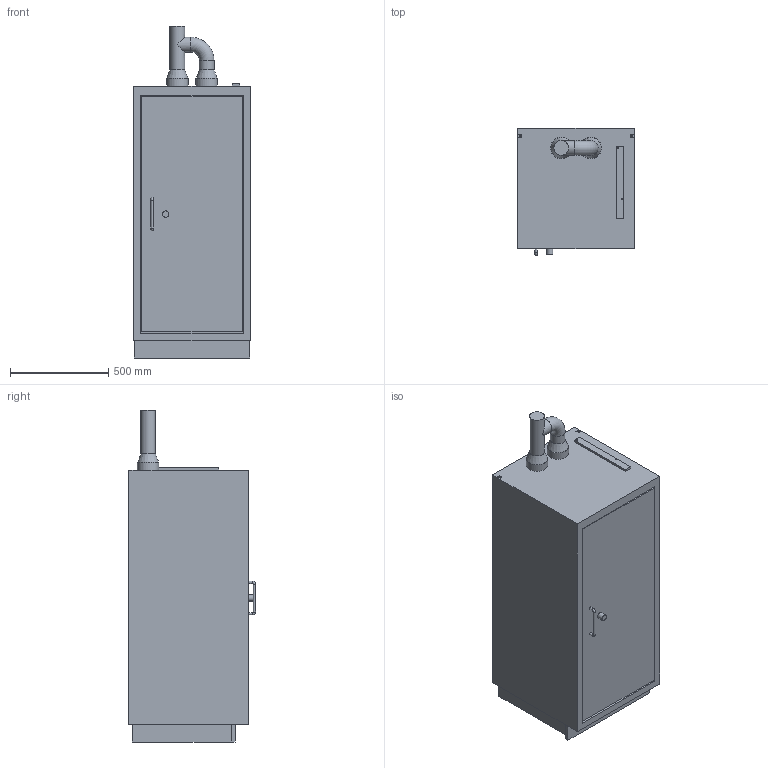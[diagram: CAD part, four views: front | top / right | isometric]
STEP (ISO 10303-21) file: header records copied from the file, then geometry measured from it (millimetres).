
FILE_DESCRIPTION(/* description */ ('Unknown'),/* implementation_level */ '2;1');
FILE_NAME(/* name */ 'BATTERY standard S_D00108835',/* time_stamp */ '2020-11-18T13:20:31+01:00',/* author */ ('Unknown'),/* organization */ ('Unknown'),/* preprocessor_version */ 'ST-DEVELOPER v16.7',/* originating_system */ 'Solid Edge',/* authorisation */ 'Unknown');
FILE_SCHEMA (('AUTOMOTIVE_DESIGN {1 0 10303 214 3 1 1}'));
Length unit declared in the file: millimetre
Products named in the file (1): BATTERY standard S_D00108835
Bounding box: 594 x 647 x 1691 mm (x, y, z)
Volume: 476164492.5 mm3; surface area: 4807671.5 mm2
Topology: 1 solids, 1 shells, 84 faces, 201 edges, 134 vertices
Faces by surface type: plane 62, cylinder 17, torus 3, cone 2
Full cylindrical faces by diameter (mm): 6.2 x2, 7.5 x2, 12 x3, 30 x4, 32 x1, 75 x3, 109.5 x2
Entity records: 2848 total; most frequent: CARTESIAN_POINT 379, DIRECTION 376, ORIENTED_EDGE 338, EDGE_CURVE 169, LINE 132, VECTOR 132, EDGE_LOOP 126, FACE_BOUND 126
